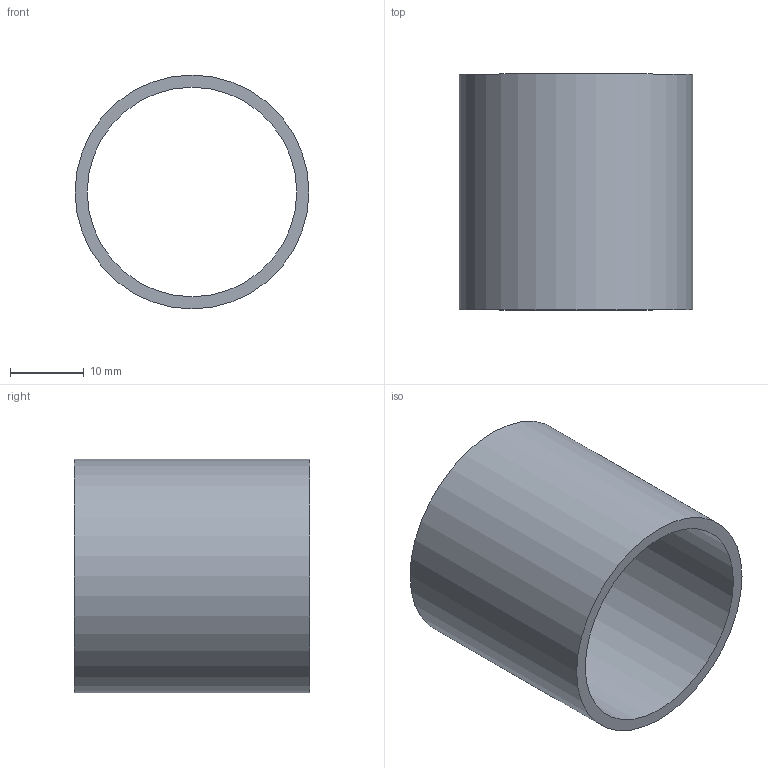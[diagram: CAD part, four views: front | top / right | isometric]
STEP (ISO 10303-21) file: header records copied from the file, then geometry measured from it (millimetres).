
FILE_DESCRIPTION(/* description */ (''),/* implementation_level */ '2;1');
FILE_NAME(/* name */ 'DCOL-RND-125-065-Metric.step',/* time_stamp */ '2025-08-05T14:44:57-07:00',/* author */ (''),/* organization */ (''),/* preprocessor_version */ 'ST-DEVELOPER v20.1',/* originating_system */ 'Autodesk Translation Framework v14.10.0.0',/* authorisation */ '');
FILE_SCHEMA (('AUTOMOTIVE_DESIGN { 1 0 10303 214 3 1 1 }'));
Length unit declared in the file: millimetre
Products named in the file (1): (Unsaved)
Bounding box: 31.75 x 32 x 31.75 mm (x, y, z)
Volume: 4996.4 mm3; surface area: 6364.8 mm2
Topology: 1 solids, 1 shells, 4 faces, 6 edges, 4 vertices
Faces by surface type: cylinder 2, plane 2
Full cylindrical faces by diameter (mm): 28.448 x1, 31.75 x1
Entity records: 131 total; most frequent: DIRECTION 20, CARTESIAN_POINT 15, ORIENTED_EDGE 12, AXIS2_PLACEMENT_3D 9, EDGE_LOOP 6, EDGE_CURVE 6, FACE_OUTER_BOUND 4, CIRCLE 4
